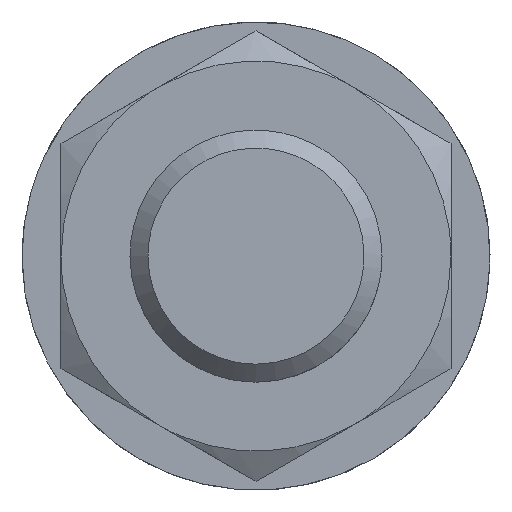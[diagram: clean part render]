
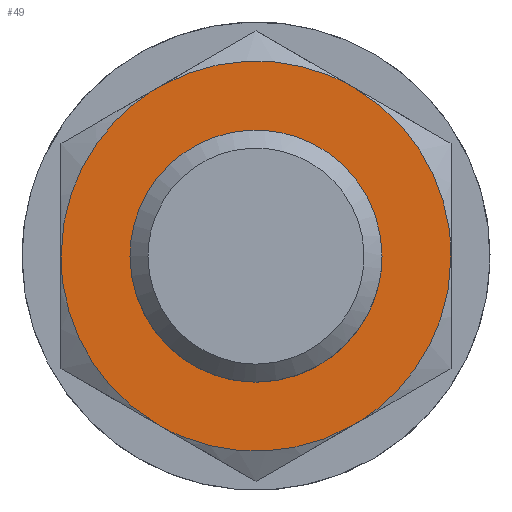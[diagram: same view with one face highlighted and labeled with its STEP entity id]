
A CAD part, left-side view. The second image highlights one B-rep face of the part: STEP entity #49.
In plain terms, the highlighted planar face has unit normal (-1, 0, 0).
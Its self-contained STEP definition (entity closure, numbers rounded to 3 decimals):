
#40=FACE_BOUND('',#138,.T.);
#49=ADVANCED_FACE('',(#92,#40),#658,.T.);
#92=FACE_OUTER_BOUND('',#137,.T.);
#137=EDGE_LOOP('',(#202,#203,#204,#205,#206,#207));
#138=EDGE_LOOP('',(#208,#209));
#202=ORIENTED_EDGE('',*,*,#403,.F.);
#203=ORIENTED_EDGE('',*,*,#405,.F.);
#204=ORIENTED_EDGE('',*,*,#406,.F.);
#205=ORIENTED_EDGE('',*,*,#404,.F.);
#206=ORIENTED_EDGE('',*,*,#402,.F.);
#207=ORIENTED_EDGE('',*,*,#401,.F.);
#208=ORIENTED_EDGE('',*,*,#391,.F.);
#209=ORIENTED_EDGE('',*,*,#389,.F.);
#389=EDGE_CURVE('',#604,#594,#515,.T.);
#391=EDGE_CURVE('',#594,#604,#516,.T.);
#401=EDGE_CURVE('',#598,#599,#524,.T.);
#402=EDGE_CURVE('',#599,#603,#525,.T.);
#403=EDGE_CURVE('',#600,#598,#526,.T.);
#404=EDGE_CURVE('',#603,#602,#527,.T.);
#405=EDGE_CURVE('',#601,#600,#528,.T.);
#406=EDGE_CURVE('',#602,#601,#529,.T.);
#515=(
BOUNDED_CURVE()
B_SPLINE_CURVE(2,(#1161,#1162,#1163,#1164,#1165),.UNSPECIFIED.,.F.,.F.)
B_SPLINE_CURVE_WITH_KNOTS((3,2,3),(65.973,98.96,131.947),
 .UNSPECIFIED.)
CURVE()
GEOMETRIC_REPRESENTATION_ITEM()
RATIONAL_B_SPLINE_CURVE((1.,0.707,1.,0.707,1.))
REPRESENTATION_ITEM('')
);
#516=(
BOUNDED_CURVE()
B_SPLINE_CURVE(2,(#1168,#1169,#1170,#1171,#1172),.UNSPECIFIED.,.F.,.F.)
B_SPLINE_CURVE_WITH_KNOTS((3,2,3),(0.,32.987,65.973),
 .UNSPECIFIED.)
CURVE()
GEOMETRIC_REPRESENTATION_ITEM()
RATIONAL_B_SPLINE_CURVE((1.,0.707,1.,0.707,1.))
REPRESENTATION_ITEM('')
);
#524=(
BOUNDED_CURVE()
B_SPLINE_CURVE(2,(#1210,#1211,#1212),.UNSPECIFIED.,.F.,.F.)
B_SPLINE_CURVE_WITH_KNOTS((3,3),(0.,34.034),.UNSPECIFIED.)
CURVE()
GEOMETRIC_REPRESENTATION_ITEM()
RATIONAL_B_SPLINE_CURVE((1.,0.866,1.))
REPRESENTATION_ITEM('')
);
#525=(
BOUNDED_CURVE()
B_SPLINE_CURVE(2,(#1213,#1214,#1215),.UNSPECIFIED.,.F.,.F.)
B_SPLINE_CURVE_WITH_KNOTS((3,3),(0.,34.034),.UNSPECIFIED.)
CURVE()
GEOMETRIC_REPRESENTATION_ITEM()
RATIONAL_B_SPLINE_CURVE((1.,0.866,1.))
REPRESENTATION_ITEM('')
);
#526=(
BOUNDED_CURVE()
B_SPLINE_CURVE(2,(#1216,#1217,#1218),.UNSPECIFIED.,.F.,.F.)
B_SPLINE_CURVE_WITH_KNOTS((3,3),(0.,34.034),.UNSPECIFIED.)
CURVE()
GEOMETRIC_REPRESENTATION_ITEM()
RATIONAL_B_SPLINE_CURVE((1.,0.866,1.))
REPRESENTATION_ITEM('')
);
#527=(
BOUNDED_CURVE()
B_SPLINE_CURVE(2,(#1219,#1220,#1221),.UNSPECIFIED.,.F.,.F.)
B_SPLINE_CURVE_WITH_KNOTS((3,3),(0.,34.034),.UNSPECIFIED.)
CURVE()
GEOMETRIC_REPRESENTATION_ITEM()
RATIONAL_B_SPLINE_CURVE((1.,0.866,1.))
REPRESENTATION_ITEM('')
);
#528=(
BOUNDED_CURVE()
B_SPLINE_CURVE(2,(#1222,#1223,#1224),.UNSPECIFIED.,.F.,.F.)
B_SPLINE_CURVE_WITH_KNOTS((3,3),(0.,34.034),.UNSPECIFIED.)
CURVE()
GEOMETRIC_REPRESENTATION_ITEM()
RATIONAL_B_SPLINE_CURVE((1.,0.866,1.))
REPRESENTATION_ITEM('')
);
#529=(
BOUNDED_CURVE()
B_SPLINE_CURVE(2,(#1225,#1226,#1227),.UNSPECIFIED.,.F.,.F.)
B_SPLINE_CURVE_WITH_KNOTS((3,3),(0.,34.034),.UNSPECIFIED.)
CURVE()
GEOMETRIC_REPRESENTATION_ITEM()
RATIONAL_B_SPLINE_CURVE((1.,0.866,1.))
REPRESENTATION_ITEM('')
);
#594=VERTEX_POINT('',#1129);
#598=VERTEX_POINT('',#1133);
#599=VERTEX_POINT('',#1134);
#600=VERTEX_POINT('',#1135);
#601=VERTEX_POINT('',#1136);
#602=VERTEX_POINT('',#1137);
#603=VERTEX_POINT('',#1138);
#604=VERTEX_POINT('',#1139);
#658=PLANE('',#772);
#772=AXIS2_PLACEMENT_3D('',#886,#798,$);
#798=DIRECTION('',(-1.,0.,0.));
#886=CARTESIAN_POINT('',(58.333,-39.12,-45.153));
#1129=CARTESIAN_POINT('',(58.333,21.,0.));
#1133=CARTESIAN_POINT('',(58.333,-16.25,-28.146));
#1134=CARTESIAN_POINT('',(58.333,16.25,-28.146));
#1135=CARTESIAN_POINT('',(58.333,-32.5,0.));
#1136=CARTESIAN_POINT('',(58.333,-16.25,28.146));
#1137=CARTESIAN_POINT('',(58.333,16.25,28.146));
#1138=CARTESIAN_POINT('',(58.333,32.5,0.));
#1139=CARTESIAN_POINT('',(58.333,-21.,0.));
#1161=CARTESIAN_POINT('',(58.333,-21.,0.));
#1162=CARTESIAN_POINT('',(58.333,-21.,21.));
#1163=CARTESIAN_POINT('',(58.333,0.,21.));
#1164=CARTESIAN_POINT('',(58.333,21.,21.));
#1165=CARTESIAN_POINT('',(58.333,21.,0.));
#1168=CARTESIAN_POINT('',(58.333,21.,0.));
#1169=CARTESIAN_POINT('',(58.333,21.,-21.));
#1170=CARTESIAN_POINT('',(58.333,0.,-21.));
#1171=CARTESIAN_POINT('',(58.333,-21.,-21.));
#1172=CARTESIAN_POINT('',(58.333,-21.,0.));
#1210=CARTESIAN_POINT('',(58.333,-16.25,-28.146));
#1211=CARTESIAN_POINT('',(58.333,0.,-37.528));
#1212=CARTESIAN_POINT('',(58.333,16.25,-28.146));
#1213=CARTESIAN_POINT('',(58.333,16.25,-28.146));
#1214=CARTESIAN_POINT('',(58.333,32.5,-18.764));
#1215=CARTESIAN_POINT('',(58.333,32.5,0.));
#1216=CARTESIAN_POINT('',(58.333,-32.5,0.));
#1217=CARTESIAN_POINT('',(58.333,-32.5,-18.764));
#1218=CARTESIAN_POINT('',(58.333,-16.25,-28.146));
#1219=CARTESIAN_POINT('',(58.333,32.5,0.));
#1220=CARTESIAN_POINT('',(58.333,32.5,18.764));
#1221=CARTESIAN_POINT('',(58.333,16.25,28.146));
#1222=CARTESIAN_POINT('',(58.333,-16.25,28.146));
#1223=CARTESIAN_POINT('',(58.333,-32.5,18.764));
#1224=CARTESIAN_POINT('',(58.333,-32.5,0.));
#1225=CARTESIAN_POINT('',(58.333,16.25,28.146));
#1226=CARTESIAN_POINT('',(58.333,0.,37.528));
#1227=CARTESIAN_POINT('',(58.333,-16.25,28.146));
